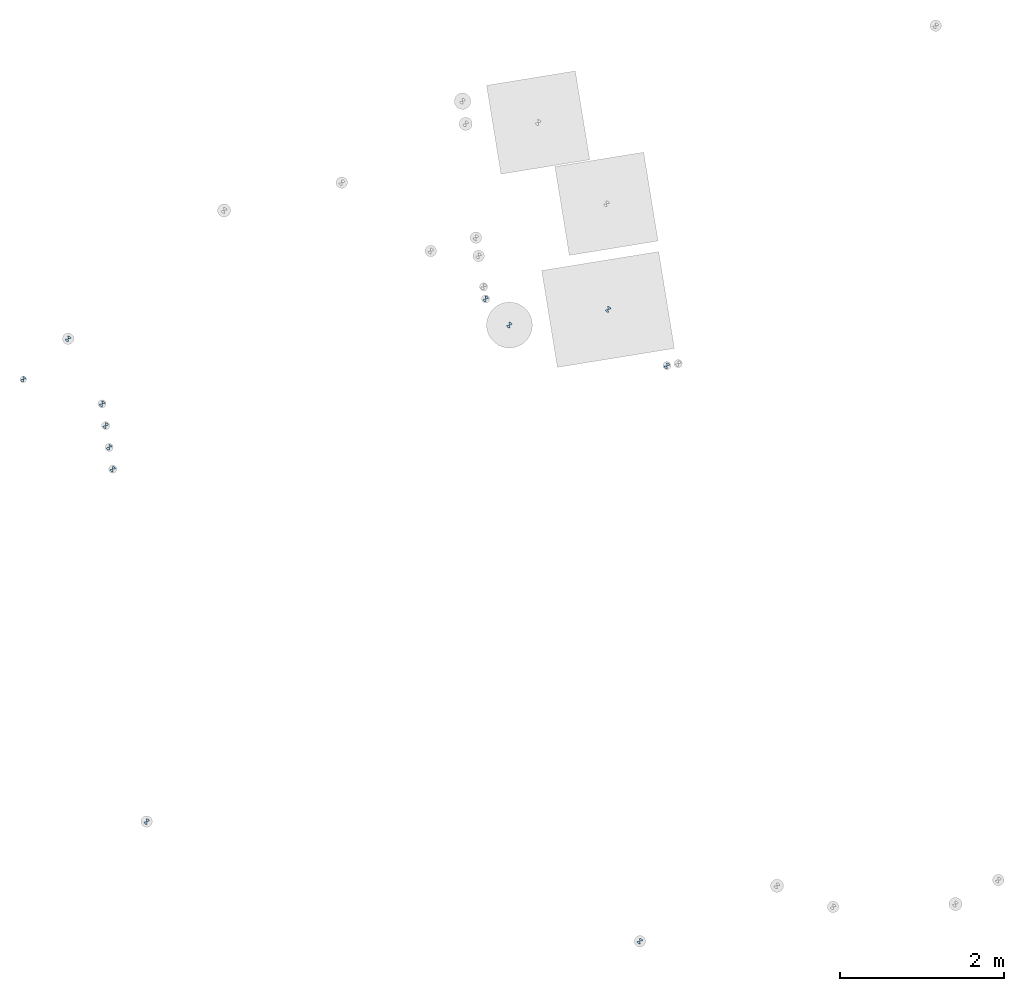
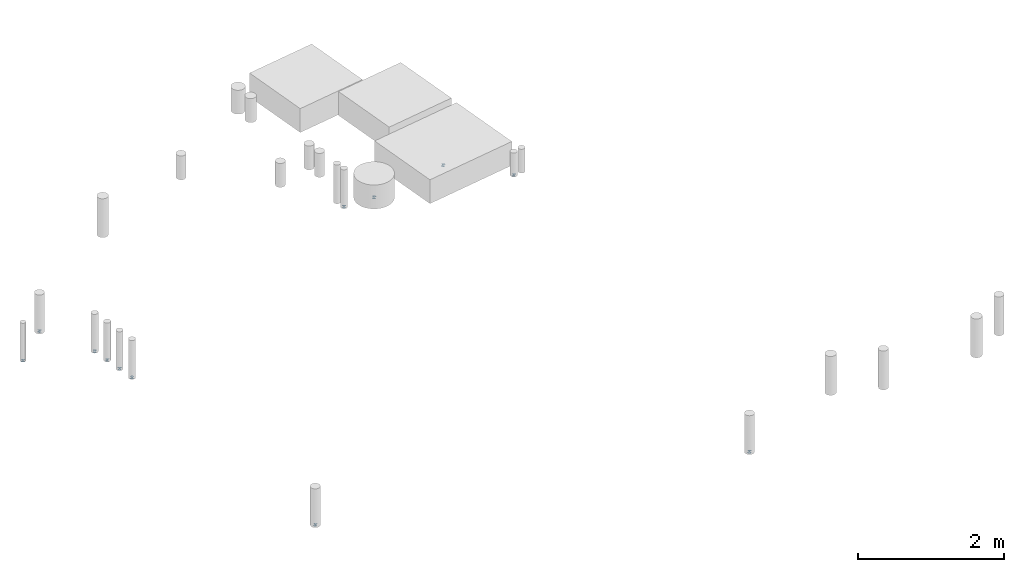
# One storey, part 1 of 4: 12 slabs.
"""IFC2X3 building model written with IfcOpenShell, lengths in millimetres."""

from ifc_helpers import new_model, entity, si_unit, converted_unit, derived_unit, direction, frame, frame_2d, origin, origin_with_axes, place, context, subcontext, project, spatial, polyline, circle_curve, parameter, trimmed, segment, composite_curve, outline, extrude, material, type_object, element, save


model = new_model("IFC2X3")

# Units and contexts
model_context = context("Model", 3, precision=0.01, world=origin(), true_north=direction((6.12323399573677e-17, 1.0)))
plan_context = context("Plan", 3, precision=1e-05, world=origin_with_axes())
body_context = subcontext(model_context, "Body", "Model", "MODEL_VIEW")
ifc_project = project(units=[converted_unit("PLANEANGLEUNIT", "DEGREE", entity("IfcPositiveLengthMeasure", 0.0174532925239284), si_unit("PLANEANGLEUNIT", "RADIAN"), dimensions=[0, 0, 0, 0, 0, 0, 0]), si_unit("AREAUNIT", "SQUARE_METRE"), si_unit("LENGTHUNIT", "METRE", prefix="MILLI"), si_unit("MASSUNIT", "GRAM", prefix="KILO"), si_unit("POWERUNIT", "WATT"), si_unit("PRESSUREUNIT", "PASCAL", prefix="KILO"), si_unit("FORCEUNIT", "NEWTON", prefix="KILO"), si_unit("ELECTRICVOLTAGEUNIT", "VOLT"), si_unit("ELECTRICCURRENTUNIT", "AMPERE"), si_unit("THERMODYNAMICTEMPERATUREUNIT", "DEGREE_CELSIUS"), si_unit("TIMEUNIT", "SECOND"), si_unit("VOLUMEUNIT", "CUBIC_METRE"), derived_unit("LINEARVELOCITYUNIT", [(si_unit("LENGTHUNIT", "METRE"), 1), (si_unit("TIMEUNIT", "SECOND"), -1)]), derived_unit("VOLUMETRICFLOWRATEUNIT", [(si_unit("VOLUMEUNIT", "CUBIC_METRE"), 1), (si_unit("TIMEUNIT", "SECOND"), -1)]), derived_unit("THERMALTRANSMITTANCEUNIT", [(si_unit("POWERUNIT", "WATT"), 1), (si_unit("THERMODYNAMICTEMPERATUREUNIT", "KELVIN"), -1), (si_unit("AREAUNIT", "SQUARE_METRE"), -1)]), derived_unit("SOUNDPRESSUREUNIT", [(si_unit("PRESSUREUNIT", "PASCAL"), 1)])], contexts=[model_context, plan_context])

# Site, building, storey
site_placement = place(None, frame((-0.00071070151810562, 0.00438415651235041, 0.0), z_axis=(0.0, 0.0, 1.0), x_axis=(-0.160236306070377, 0.987078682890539, 0.0)))
site = spatial("IfcSite", under=ifc_project, at=site_placement, Name="Default", CompositionType="ELEMENT")
building_placement = place(site_placement, origin_with_axes())
building = spatial("IfcBuilding", under=site, at=building_placement, CompositionType="ELEMENT")
storey_placement = place(building_placement, frame((0.0, 0.0, 50999.9999999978), z_axis=(0.0, 0.0, 1.0), x_axis=(1.0, 0.0, 0.0)))
storey = spatial("IfcBuildingStorey", under=building, at=storey_placement, Name="Nivå D", CompositionType="ELEMENT", Elevation=50999.9999999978)

# Slabs
ifc_material = material(Name="Black")
slab_type_1 = type_object("IfcSlabType", Name="SurveyMarker:Custom", PredefinedType="BASESLAB", material=ifc_material)
slab_1_placement = place(storey_placement, origin_with_axes())
element("IfcSlab", 1, at=slab_1_placement, inside=storey, type_object=slab_type_1, Name="SurveyMarker:Custom", ObjectType="SurveyMarker:Custom", PredefinedType="BASESLAB", context=body_context, shape_type="SweptSolid", body=[
    extrude(outline(composite_curve([segment(polyline([(-11.6666666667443, -11.6666666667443), (23.3333333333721, -11.6666666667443)]), True, "CONTINUOUS"), segment(trimmed(circle_curve(frame_2d((-11.6666666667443, -11.6666666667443), x_axis=(0.0, 1.0)), 35.0), [parameter(269.999999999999)], [parameter(359.999999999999)], True, "PARAMETER"), True, "CONTINUOUS"), segment(polyline([(-11.6666666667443, 23.3333333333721), (-11.6666666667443, -11.6666666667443)]), True, "CONTINUOUS")], self_intersect=False)), frame((775842.752508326, -596745.425330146, -400.0), z_axis=(0.0, 0.0, 1.0), x_axis=(0.0, -1.0, 0.0)), (0.0, 0.0, 1.0), 0.799999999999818),
    extrude(outline(composite_curve([segment(polyline([(-11.6666666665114, -11.6666666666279), (23.3333333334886, -11.6666666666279)]), True, "CONTINUOUS"), segment(trimmed(circle_curve(frame_2d((-11.6666666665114, -11.6666666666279), x_axis=(0.0, 1.0)), 35.0), [parameter(269.999999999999)], [parameter(359.999999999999)], True, "PARAMETER"), True, "CONTINUOUS"), segment(polyline([(-11.6666666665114, 23.3333333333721), (-11.6666666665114, -11.6666666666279)]), True, "CONTINUOUS")], self_intersect=False)), frame((775819.419174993, -596722.091996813, -400.0), z_axis=(0.0, 0.0, 1.0), x_axis=(0.0, 1.0, 0.0)), (0.0, 0.0, 1.0), 0.799999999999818),
])
slab_2_placement = place(storey_placement, origin_with_axes())
element("IfcSlab", 2, at=slab_2_placement, inside=storey, type_object=slab_type_1, Name="SurveyMarker:Custom", ObjectType="SurveyMarker:Custom", PredefinedType="BASESLAB", context=body_context, shape_type="SweptSolid", body=[
    extrude(outline(composite_curve([segment(polyline([(-11.6666666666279, -11.6666666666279), (23.3333333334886, -11.6666666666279)]), True, "CONTINUOUS"), segment(trimmed(circle_curve(frame_2d((-11.6666666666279, -11.6666666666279), x_axis=(0.0, 1.0)), 35.0), [parameter(269.999999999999)], [parameter(359.999999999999)], True, "PARAMETER"), True, "CONTINUOUS"), segment(polyline([(-11.6666666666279, 23.3333333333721), (-11.6666666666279, -11.6666666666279)]), True, "CONTINUOUS")], self_intersect=False)), frame((776641.232705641, -594924.247165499, -400.0), z_axis=(0.0, 0.0, 1.0), x_axis=(0.0, -1.0, 0.0)), (0.0, 0.0, 1.0), 0.799999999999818),
    extrude(outline(composite_curve([segment(polyline([(-11.6666666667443, -11.6666666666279), (23.3333333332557, -11.6666666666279)]), True, "CONTINUOUS"), segment(trimmed(circle_curve(frame_2d((-11.6666666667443, -11.6666666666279), x_axis=(0.0, 1.0)), 35.0), [parameter(269.999999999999)], [parameter(359.999999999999)], True, "PARAMETER"), True, "CONTINUOUS"), segment(polyline([(-11.6666666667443, 23.3333333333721), (-11.6666666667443, -11.6666666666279)]), True, "CONTINUOUS")], self_intersect=False)), frame((776617.899372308, -594900.913832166, -400.0), z_axis=(0.0, 0.0, 1.0), x_axis=(0.0, 1.0, 0.0)), (0.0, 0.0, 1.0), 0.799999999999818),
])
slab_3_placement = place(storey_placement, origin_with_axes())
element("IfcSlab", 3, at=slab_3_placement, inside=storey, type_object=slab_type_1, Name="SurveyMarker:Custom", ObjectType="SurveyMarker:Custom", PredefinedType="BASESLAB", context=body_context, shape_type="SweptSolid", body=[
    extrude(outline(composite_curve([segment(polyline([(-11.6666666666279, -11.6666666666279), (23.3333333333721, -11.6666666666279)]), True, "CONTINUOUS"), segment(trimmed(circle_curve(frame_2d((-11.6666666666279, -11.6666666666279), x_axis=(0.0, 1.0)), 35.0), [parameter(269.999999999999)], [parameter(359.999999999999)], True, "PARAMETER"), True, "CONTINUOUS"), segment(polyline([(-11.6666666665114, 23.3333333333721), (-11.6666666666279, -11.6666666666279)]), True, "CONTINUOUS")], self_intersect=False)), frame((775679.009343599, -589853.423728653, -650.0), z_axis=(0.0, 0.0, 1.0), x_axis=(0.0, -1.0, 0.0)), (0.0, 0.0, 1.0), 0.799999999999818),
    extrude(outline(composite_curve([segment(polyline([(-11.6666666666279, -11.6666666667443), (23.3333333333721, -11.6666666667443)]), True, "CONTINUOUS"), segment(trimmed(circle_curve(frame_2d((-11.6666666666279, -11.6666666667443), x_axis=(0.0, 1.0)), 35.0), [parameter(269.999999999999)], [parameter(359.999999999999)], True, "PARAMETER"), True, "CONTINUOUS"), segment(polyline([(-11.6666666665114, 23.3333333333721), (-11.6666666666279, -11.6666666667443)]), True, "CONTINUOUS")], self_intersect=False)), frame((775655.676010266, -589830.09039532, -650.0), z_axis=(0.0, 0.0, 1.0), x_axis=(0.0, 1.0, 0.0)), (0.0, 0.0, 1.0), 0.799999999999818),
])
slab_4_placement = place(storey_placement, origin_with_axes())
element("IfcSlab", 4, at=slab_4_placement, inside=storey, type_object=slab_type_1, Name="SurveyMarker:Custom", ObjectType="SurveyMarker:Custom", PredefinedType="BASESLAB", context=body_context, shape_type="SweptSolid", body=[
    extrude(outline(composite_curve([segment(polyline([(-11.6666666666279, -11.6666666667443), (23.3333333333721, -11.6666666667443)]), True, "CONTINUOUS"), segment(trimmed(circle_curve(frame_2d((-11.6666666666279, -11.6666666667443), x_axis=(0.0, 1.0)), 35.0), [parameter(269.999999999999)], [parameter(359.999999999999)], True, "PARAMETER"), True, "CONTINUOUS"), segment(polyline([(-11.6666666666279, 23.3333333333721), (-11.6666666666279, -11.6666666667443)]), True, "CONTINUOUS")], self_intersect=False)), frame((775949.0093436, -589853.423728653, -650.0), z_axis=(0.0, 0.0, 1.0), x_axis=(0.0, -1.0, 0.0)), (0.0, 0.0, 1.0), 0.799999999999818),
    extrude(outline(composite_curve([segment(polyline([(-11.6666666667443, -11.6666666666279), (23.3333333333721, -11.6666666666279)]), True, "CONTINUOUS"), segment(trimmed(circle_curve(frame_2d((-11.6666666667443, -11.6666666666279), x_axis=(0.0, 1.0)), 35.0), [parameter(269.999999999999)], [parameter(359.999999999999)], True, "PARAMETER"), True, "CONTINUOUS"), segment(polyline([(-11.6666666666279, 23.3333333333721), (-11.6666666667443, -11.6666666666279)]), True, "CONTINUOUS")], self_intersect=False)), frame((775925.676010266, -589830.09039532, -650.0), z_axis=(0.0, 0.0, 1.0), x_axis=(0.0, 1.0, 0.0)), (0.0, 0.0, 1.0), 0.799999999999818),
])
slab_5_placement = place(storey_placement, origin_with_axes())
element("IfcSlab", 5, at=slab_5_placement, inside=storey, type_object=slab_type_1, Name="SurveyMarker:Custom", ObjectType="SurveyMarker:Custom", PredefinedType="BASESLAB", context=body_context, shape_type="SweptSolid", body=[
    extrude(outline(composite_curve([segment(polyline([(-11.6666666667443, -11.6666666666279), (23.3333333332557, -11.6666666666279)]), True, "CONTINUOUS"), segment(trimmed(circle_curve(frame_2d((-11.6666666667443, -11.6666666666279), x_axis=(0.0, 1.0)), 35.0), [parameter(269.999999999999)], [parameter(359.999999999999)], True, "PARAMETER"), True, "CONTINUOUS"), segment(polyline([(-11.6666666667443, 23.3333333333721), (-11.6666666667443, -11.6666666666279)]), True, "CONTINUOUS")], self_intersect=False)), frame((776219.0093436, -589853.423728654, -650.0), z_axis=(0.0, 0.0, 1.0), x_axis=(0.0, -1.0, 0.0)), (0.0, 0.0, 1.0), 0.799999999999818),
    extrude(outline(composite_curve([segment(polyline([(-11.6666666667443, -11.6666666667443), (23.3333333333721, -11.6666666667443)]), True, "CONTINUOUS"), segment(trimmed(circle_curve(frame_2d((-11.6666666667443, -11.6666666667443), x_axis=(0.0, 1.0)), 35.0), [parameter(269.999999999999)], [parameter(359.999999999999)], True, "PARAMETER"), True, "CONTINUOUS"), segment(polyline([(-11.6666666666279, 23.3333333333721), (-11.6666666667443, -11.6666666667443)]), True, "CONTINUOUS")], self_intersect=False)), frame((776195.676010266, -589830.09039532, -650.0), z_axis=(0.0, 0.0, 1.0), x_axis=(0.0, 1.0, 0.0)), (0.0, 0.0, 1.0), 0.799999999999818),
])
slab_6_placement = place(storey_placement, origin_with_axes())
element("IfcSlab", 6, at=slab_6_placement, inside=storey, type_object=slab_type_1, Name="SurveyMarker:Custom", ObjectType="SurveyMarker:Custom", PredefinedType="BASESLAB", context=body_context, shape_type="SweptSolid", body=[
    extrude(outline(composite_curve([segment(polyline([(-11.6666666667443, -11.6666666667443), (23.3333333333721, -11.6666666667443)]), True, "CONTINUOUS"), segment(trimmed(circle_curve(frame_2d((-11.6666666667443, -11.6666666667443), x_axis=(0.0, 1.0)), 35.0), [parameter(269.999999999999)], [parameter(359.999999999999)], True, "PARAMETER"), True, "CONTINUOUS"), segment(polyline([(-11.6666666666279, 23.3333333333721), (-11.6666666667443, -11.6666666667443)]), True, "CONTINUOUS")], self_intersect=False)), frame((776489.0093436, -589853.423728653, -650.0), z_axis=(0.0, 0.0, 1.0), x_axis=(0.0, -1.0, 0.0)), (0.0, 0.0, 1.0), 0.799999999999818),
    extrude(outline(composite_curve([segment(polyline([(-11.6666666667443, -11.6666666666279), (23.3333333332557, -11.6666666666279)]), True, "CONTINUOUS"), segment(trimmed(circle_curve(frame_2d((-11.6666666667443, -11.6666666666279), x_axis=(0.0, 1.0)), 35.0), [parameter(269.999999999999)], [parameter(359.999999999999)], True, "PARAMETER"), True, "CONTINUOUS"), segment(polyline([(-11.6666666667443, 23.3333333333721), (-11.6666666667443, -11.6666666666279)]), True, "CONTINUOUS")], self_intersect=False)), frame((776465.676010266, -589830.09039532, -650.0), z_axis=(0.0, 0.0, 1.0), x_axis=(0.0, 1.0, 0.0)), (0.0, 0.0, 1.0), 0.799999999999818),
])
slab_7_placement = place(storey_placement, origin_with_axes())
element("IfcSlab", 7, at=slab_7_placement, inside=storey, type_object=slab_type_1, Name="SurveyMarker:Custom", ObjectType="SurveyMarker:Custom", PredefinedType="BASESLAB", context=body_context, shape_type="SweptSolid", body=[
    extrude(outline(composite_curve([segment(polyline([(-11.6666666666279, -11.6666666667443), (23.3333333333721, -11.6666666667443)]), True, "CONTINUOUS"), segment(trimmed(circle_curve(frame_2d((-11.6666666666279, -11.6666666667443), x_axis=(0.0, 1.0)), 35.0), [parameter(269.999999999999)], [parameter(359.999999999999)], True, "PARAMETER"), True, "CONTINUOUS"), segment(polyline([(-11.6666666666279, 23.3333333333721), (-11.6666666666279, -11.6666666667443)]), True, "CONTINUOUS")], self_intersect=False)), frame((776938.286310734, -588949.608182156, -650.0), z_axis=(0.0, 0.0, 1.0), x_axis=(0.0, -1.0, 0.0)), (0.0, 0.0, 1.0), 0.799999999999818),
    extrude(outline(composite_curve([segment(polyline([(-11.6666666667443, -11.6666666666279), (23.3333333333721, -11.6666666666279)]), True, "CONTINUOUS"), segment(trimmed(circle_curve(frame_2d((-11.6666666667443, -11.6666666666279), x_axis=(0.0, 1.0)), 35.0), [parameter(269.999999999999)], [parameter(359.999999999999)], True, "PARAMETER"), True, "CONTINUOUS"), segment(polyline([(-11.6666666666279, 23.3333333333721), (-11.6666666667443, -11.6666666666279)]), True, "CONTINUOUS")], self_intersect=False)), frame((776914.9529774, -588926.274848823, -650.0), z_axis=(0.0, 0.0, 1.0), x_axis=(0.0, 1.0, 0.0)), (0.0, 0.0, 1.0), 0.799999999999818),
])
slab_8_placement = place(storey_placement, origin_with_axes())
element("IfcSlab", 8, at=slab_8_placement, inside=storey, type_object=slab_type_1, Name="SurveyMarker:Custom", ObjectType="SurveyMarker:Custom", PredefinedType="BASESLAB", context=body_context, shape_type="SweptSolid", body=[
    extrude(outline(composite_curve([segment(polyline([(-11.6666666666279, -11.6666666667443), (23.3333333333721, -11.6666666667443)]), True, "CONTINUOUS"), segment(trimmed(circle_curve(frame_2d((-11.6666666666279, -11.6666666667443), x_axis=(0.0, 1.0)), 35.0), [parameter(269.999999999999)], [parameter(359.999999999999)], True, "PARAMETER"), True, "CONTINUOUS"), segment(polyline([(-11.6666666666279, 23.3333333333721), (-11.6666666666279, -11.6666666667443)]), True, "CONTINUOUS")], self_intersect=False)), frame((777340.379672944, -589570.825385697, -650.0), z_axis=(0.0, 0.0, 1.0), x_axis=(0.0, -1.0, 0.0)), (0.0, 0.0, 1.0), 0.799999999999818),
    extrude(outline(composite_curve([segment(polyline([(-11.6666666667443, -11.6666666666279), (23.3333333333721, -11.6666666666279)]), True, "CONTINUOUS"), segment(trimmed(circle_curve(frame_2d((-11.6666666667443, -11.6666666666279), x_axis=(0.0, 1.0)), 35.0), [parameter(269.999999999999)], [parameter(359.999999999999)], True, "PARAMETER"), True, "CONTINUOUS"), segment(polyline([(-11.6666666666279, 23.3333333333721), (-11.6666666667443, -11.6666666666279)]), True, "CONTINUOUS")], self_intersect=False)), frame((777317.046339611, -589547.492052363, -650.0), z_axis=(0.0, 0.0, 1.0), x_axis=(0.0, 1.0, 0.0)), (0.0, 0.0, 1.0), 0.799999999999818),
])
slab_9_placement = place(storey_placement, origin_with_axes())
element("IfcSlab", 9, at=slab_9_placement, inside=storey, type_object=slab_type_1, Name="SurveyMarker:Custom", ObjectType="SurveyMarker:Custom", PredefinedType="BASESLAB", context=body_context, shape_type="SweptSolid", body=[
    extrude(outline(composite_curve([segment(polyline([(-11.6666666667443, -11.6666666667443), (23.3333333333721, -11.6666666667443)]), True, "CONTINUOUS"), segment(trimmed(circle_curve(frame_2d((-11.6666666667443, -11.6666666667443), x_axis=(0.0, 1.0)), 35.0), [parameter(269.999999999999)], [parameter(359.999999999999)], True, "PARAMETER"), True, "CONTINUOUS"), segment(polyline([(-11.6666666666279, 23.3333333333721), (-11.6666666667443, -11.6666666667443)]), True, "CONTINUOUS")], self_intersect=False)), frame((768948.151542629, -595291.271192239, -650.0), z_axis=(0.0, 0.0, 1.0), x_axis=(0.0, -1.0, 0.0)), (0.0, 0.0, 1.0), 0.799999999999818),
    extrude(outline(composite_curve([segment(polyline([(-11.6666666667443, -11.6666666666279), (23.3333333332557, -11.6666666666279)]), True, "CONTINUOUS"), segment(trimmed(circle_curve(frame_2d((-11.6666666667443, -11.6666666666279), x_axis=(0.0, 1.0)), 35.0), [parameter(269.999999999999)], [parameter(359.999999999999)], True, "PARAMETER"), True, "CONTINUOUS"), segment(polyline([(-11.6666666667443, 23.3333333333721), (-11.6666666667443, -11.6666666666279)]), True, "CONTINUOUS")], self_intersect=False)), frame((768924.818209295, -595267.937858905, -650.0), z_axis=(0.0, 0.0, 1.0), x_axis=(0.0, 1.0, 0.0)), (0.0, 0.0, 1.0), 0.799999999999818),
])
slab_10_placement = place(storey_placement, origin_with_axes())
element("IfcSlab", 10, at=slab_10_placement, inside=storey, type_object=slab_type_1, Name="SurveyMarker:Custom", ObjectType="SurveyMarker:Custom", PredefinedType="BASESLAB", context=body_context, shape_type="SweptSolid", body=[
    extrude(outline(composite_curve([segment(polyline([(-11.6666666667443, -11.6666666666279), (23.3333333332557, -11.6666666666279)]), True, "CONTINUOUS"), segment(trimmed(circle_curve(frame_2d((-11.6666666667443, -11.6666666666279), x_axis=(0.0, 1.0)), 35.0), [parameter(269.999999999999)], [parameter(359.999999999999)], True, "PARAMETER"), True, "CONTINUOUS"), segment(polyline([(-11.6666666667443, 23.3333333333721), (-11.6666666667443, -11.6666666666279)]), True, "CONTINUOUS")], self_intersect=False)), frame((771359.138586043, -589572.424754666, -650.0), z_axis=(0.0, 0.0, 1.0), x_axis=(0.0, -1.0, 0.0)), (0.0, 0.0, 1.0), 0.799999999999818),
    extrude(outline(composite_curve([segment(polyline([(-11.6666666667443, -11.6666666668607), (23.3333333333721, -11.6666666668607)]), True, "CONTINUOUS"), segment(trimmed(circle_curve(frame_2d((-11.6666666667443, -11.6666666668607), x_axis=(0.0, 1.0)), 35.0), [parameter(269.999999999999)], [parameter(359.999999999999)], True, "PARAMETER"), True, "CONTINUOUS"), segment(polyline([(-11.6666666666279, 23.3333333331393), (-11.6666666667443, -11.6666666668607)]), True, "CONTINUOUS")], self_intersect=False)), frame((771335.80525271, -589549.091421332, -650.0), z_axis=(0.0, 0.0, 1.0), x_axis=(0.0, 1.0, 0.0)), (0.0, 0.0, 1.0), 0.799999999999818),
])
slab_11_placement = place(storey_placement, origin_with_axes())
element("IfcSlab", 11, at=slab_11_placement, inside=storey, type_object=slab_type_1, Name="SurveyMarker:Custom", ObjectType="SurveyMarker:Custom", PredefinedType="BASESLAB", context=body_context, shape_type="SweptSolid", body=[
    extrude(outline(composite_curve([segment(polyline([(-11.6666666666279, -11.6666666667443), (23.3333333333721, -11.6666666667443)]), True, "CONTINUOUS"), segment(trimmed(circle_curve(frame_2d((-11.6666666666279, -11.6666666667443), x_axis=(0.0, 1.0)), 35.0), [parameter(269.999999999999)], [parameter(359.999999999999)], True, "PARAMETER"), True, "CONTINUOUS"), segment(polyline([(-11.6666666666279, 23.3333333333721), (-11.6666666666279, -11.6666666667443)]), True, "CONTINUOUS")], self_intersect=False)), frame((777003.933541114, -594687.772969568, -650.0), z_axis=(0.0, 0.0, 1.0), x_axis=(0.0, -1.0, 0.0)), (0.0, 0.0, 1.0), 0.799999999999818),
    extrude(outline(composite_curve([segment(polyline([(-11.6666666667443, -11.6666666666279), (23.3333333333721, -11.6666666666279)]), True, "CONTINUOUS"), segment(trimmed(circle_curve(frame_2d((-11.6666666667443, -11.6666666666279), x_axis=(0.0, 1.0)), 35.0), [parameter(269.999999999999)], [parameter(359.999999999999)], True, "PARAMETER"), True, "CONTINUOUS"), segment(polyline([(-11.6666666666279, 23.3333333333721), (-11.6666666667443, -11.6666666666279)]), True, "CONTINUOUS")], self_intersect=False)), frame((776980.60020778, -594664.439636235, -650.0), z_axis=(0.0, 0.0, 1.0), x_axis=(0.0, 1.0, 0.0)), (0.0, 0.0, 1.0), 0.799999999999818),
])
slab_type_2 = type_object("IfcSlabType", Name="SurveyMarker rektangulær:Custom", PredefinedType="BASESLAB", material=ifc_material)
slab_12_placement = place(storey_placement, origin_with_axes())
element("IfcSlab", 12, at=slab_12_placement, inside=storey, type_object=slab_type_2, Name="SurveyMarker rektangulær:Custom", ObjectType="SurveyMarker rektangulær:Custom", PredefinedType="BASESLAB", context=body_context, shape_type="SweptSolid", body=[
    extrude(outline(composite_curve([segment(polyline([(-11.6666666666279, -11.6666666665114), (23.3333333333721, -11.6666666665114)]), True, "CONTINUOUS"), segment(trimmed(circle_curve(frame_2d((-11.6666666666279, -11.6666666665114), x_axis=(0.0, 1.0)), 35.0), [parameter(269.999999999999)], [parameter(359.999999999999)], True, "PARAMETER"), True, "CONTINUOUS"), segment(polyline([(-11.6666666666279, 23.3333333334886), (-11.6666666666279, -11.6666666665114)]), True, "CONTINUOUS")], self_intersect=False)), frame((776636.232705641, -596144.650431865, -400.0), z_axis=(0.0, 0.0, 1.0), x_axis=(0.0, -1.0, 0.0)), (0.0, 0.0, 1.0), 0.799999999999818),
    extrude(outline(composite_curve([segment(polyline([(-11.6666666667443, -11.6666666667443), (23.3333333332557, -11.6666666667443)]), True, "CONTINUOUS"), segment(trimmed(circle_curve(frame_2d((-11.6666666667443, -11.6666666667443), x_axis=(0.0, 1.0)), 35.0), [parameter(269.999999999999)], [parameter(359.999999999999)], True, "PARAMETER"), True, "CONTINUOUS"), segment(polyline([(-11.6666666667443, 23.3333333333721), (-11.6666666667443, -11.6666666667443)]), True, "CONTINUOUS")], self_intersect=False)), frame((776612.899372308, -596121.317098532, -400.0), z_axis=(0.0, 0.0, 1.0), x_axis=(0.0, 1.0, 0.0)), (0.0, 0.0, 1.0), 0.799999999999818),
])

save(model, "model.ifc")
